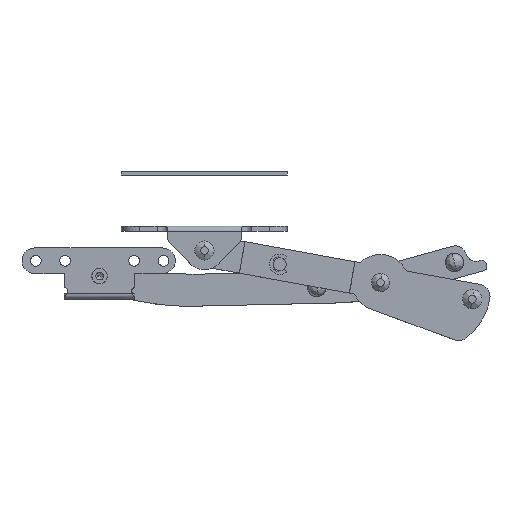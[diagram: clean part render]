
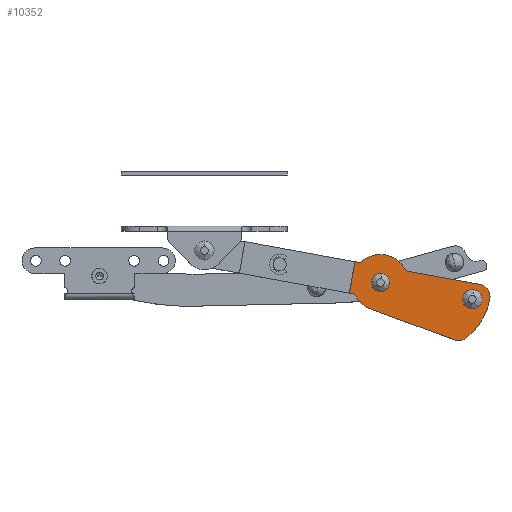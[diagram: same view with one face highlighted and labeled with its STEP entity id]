
A CAD part, top view. The second image highlights one B-rep face of the part: STEP entity #10352.
In plain terms, the highlighted planar face has unit normal (0, 0, 1).
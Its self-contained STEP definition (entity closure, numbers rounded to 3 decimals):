
#132 = VERTEX_POINT ( 'NONE', #11560 ) ;
#212 = EDGE_CURVE ( 'NONE', #14814, #14575, #11612, .T. ) ;
#307 = CIRCLE ( 'NONE', #308, 10. ) ;
#308 = AXIS2_PLACEMENT_3D ( 'NONE', #309, #310, #311 ) ;
#309 = CARTESIAN_POINT ( 'NONE',  ( 295.455, -55.27, 11. ) ) ;
#310 = DIRECTION ( 'NONE',  ( 0., 0., -1. ) ) ;
#311 = DIRECTION ( 'NONE',  ( 1., 0., 0. ) ) ;
#1413 = ORIENTED_EDGE ( 'NONE', *, *, #9859, .F. ) ;
#1584 = CARTESIAN_POINT ( 'NONE',  ( 199.897, -27.731, 11. ) ) ;
#1992 = EDGE_CURVE ( 'NONE', #9277, #9798, #12658, .T. ) ;
#2295 = VERTEX_POINT ( 'NONE', #12809 ) ;
#2404 = ORIENTED_EDGE ( 'NONE', *, *, #1992, .T. ) ;
#2492 = CARTESIAN_POINT ( 'NONE',  ( 195.425, -52.328, 11. ) ) ;
#2545 = EDGE_CURVE ( 'NONE', #11272, #2295, #12960, .T. ) ;
#2661 = CARTESIAN_POINT ( 'NONE',  ( 212.742, -44.045, 11. ) ) ;
#2729 = LINE ( 'NONE', #2730, #2731 ) ;
#2730 = CARTESIAN_POINT ( 'NONE',  ( 77.365, -30.862, 11. ) ) ;
#2731 = VECTOR ( 'NONE', #2732, 1000. ) ;
#2732 = DIRECTION ( 'NONE',  ( -0.984, 0.179, 0. ) ) ;
#2901 = CARTESIAN_POINT ( 'NONE',  ( 226.742, -44.045, 11. ) ) ;
#2924 = CIRCLE ( 'NONE', #2928, 7. ) ;
#2928 = AXIS2_PLACEMENT_3D ( 'NONE', #2929, #2930, #2931 ) ;
#2929 = CARTESIAN_POINT ( 'NONE',  ( 219.742, -44.045, 11. ) ) ;
#2930 = DIRECTION ( 'NONE',  ( 0., 0., 1. ) ) ;
#2931 = DIRECTION ( 'NONE',  ( 1., 0., 0. ) ) ;
#2988 = ORIENTED_EDGE ( 'NONE', *, *, #12390, .T. ) ;
#3168 = VERTEX_POINT ( 'NONE', #13306 ) ;
#3413 = EDGE_CURVE ( 'NONE', #11605, #3168, #13428, .T. ) ;
#3443 = CARTESIAN_POINT ( 'NONE',  ( 277.455, -88.857, 11. ) ) ;
#3517 = ORIENTED_EDGE ( 'NONE', *, *, #11323, .F. ) ;
#3566 = CIRCLE ( 'NONE', #3567, 10. ) ;
#3567 = AXIS2_PLACEMENT_3D ( 'NONE', #3568, #3569, #3570 ) ;
#3568 = CARTESIAN_POINT ( 'NONE',  ( 280.925, -79.478, 11. ) ) ;
#3569 = DIRECTION ( 'NONE',  ( 0., 0., -1. ) ) ;
#3570 = DIRECTION ( 'NONE',  ( 1., 0., 0. ) ) ;
#3871 = CARTESIAN_POINT ( 'NONE',  ( 305.294, -57.059, 11. ) ) ;
#3954 = FACE_BOUND ( 'NONE', #10289, .T. ) ;
#3955 = FACE_BOUND ( 'NONE', #9841, .T. ) ;
#3956 = FACE_OUTER_BOUND ( 'NONE', #12691, .T. ) ;
#3957 = PLANE ( 'NONE',  #3958 ) ;
#3958 = AXIS2_PLACEMENT_3D ( 'NONE', #3959, #3960, #3961 ) ;
#3959 = CARTESIAN_POINT ( 'NONE',  ( 189.249, -74.112, 11. ) ) ;
#3960 = DIRECTION ( 'NONE',  ( 0., 0., 1. ) ) ;
#3961 = DIRECTION ( 'NONE',  ( 0.984, -0.179, 0. ) ) ;
#3977 = CIRCLE ( 'NONE', #3983, 10. ) ;
#3983 = AXIS2_PLACEMENT_3D ( 'NONE', #3984, #3985, #3986 ) ;
#3984 = CARTESIAN_POINT ( 'NONE',  ( 295.455, -55.27, 11. ) ) ;
#3985 = DIRECTION ( 'NONE',  ( 0., 0., -1. ) ) ;
#3986 = DIRECTION ( 'NONE',  ( 1., 0., 0. ) ) ;
#4499 = CARTESIAN_POINT ( 'NONE',  ( 305.455, -55.27, 11. ) ) ;
#5146 = VERTEX_POINT ( 'NONE', #14191 ) ;
#5392 = EDGE_CURVE ( 'NONE', #10300, #5146, #14293, .T. ) ;
#5996 = CARTESIAN_POINT ( 'NONE',  ( 284.064, -57.104, 11. ) ) ;
#6120 = CARTESIAN_POINT ( 'NONE',  ( 299.064, -57.104, 11. ) ) ;
#6121 = CARTESIAN_POINT ( 'NONE',  ( 239.79, -34.985, 11. ) ) ;
#6235 = CIRCLE ( 'NONE', #6236, 7.5 ) ;
#6236 = AXIS2_PLACEMENT_3D ( 'NONE', #6245, #6246, #6247 ) ;
#6245 = CARTESIAN_POINT ( 'NONE',  ( 291.564, -57.104, 11. ) ) ;
#6246 = DIRECTION ( 'NONE',  ( 0., 0., 1. ) ) ;
#6247 = DIRECTION ( 'NONE',  ( 1., 0., 0. ) ) ;
#6248 = CIRCLE ( 'NONE', #6249, 22. ) ;
#6249 = AXIS2_PLACEMENT_3D ( 'NONE', #6250, #6251, #6252 ) ;
#6250 = CARTESIAN_POINT ( 'NONE',  ( 219.742, -44.045, 11. ) ) ;
#6251 = DIRECTION ( 'NONE',  ( 0., 0., -1. ) ) ;
#6252 = DIRECTION ( 'NONE',  ( 1., 0., 0. ) ) ;
#6767 = CARTESIAN_POINT ( 'NONE',  ( 212.107, -64.677, 11. ) ) ;
#6843 = LINE ( 'NONE', #6844, #6845 ) ;
#6844 = CARTESIAN_POINT ( 'NONE',  ( 210.8, -64.194, 11. ) ) ;
#6845 = VECTOR ( 'NONE', #6846, 1000. ) ;
#6846 = DIRECTION ( 'NONE',  ( -0.938, 0.347, 0. ) ) ;
#7091 = EDGE_CURVE ( 'NONE', #2295, #10571, #307, .T. ) ;
#7265 = LINE ( 'NONE', #7266, #7267 ) ;
#7266 = CARTESIAN_POINT ( 'NONE',  ( 197.753, -27.342, 11. ) ) ;
#7267 = VECTOR ( 'NONE', #7268, 1000. ) ;
#7268 = DIRECTION ( 'NONE',  ( -0.984, 0.179, 0. ) ) ;
#7547 = CIRCLE ( 'NONE', #7549, 7.5 ) ;
#7549 = AXIS2_PLACEMENT_3D ( 'NONE', #7550, #7551, #7552 ) ;
#7550 = CARTESIAN_POINT ( 'NONE',  ( 291.564, -57.104, 11. ) ) ;
#7551 = DIRECTION ( 'NONE',  ( 0., 0., 1. ) ) ;
#7552 = DIRECTION ( 'NONE',  ( 1., 0., 0. ) ) ;
#9277 = VERTEX_POINT ( 'NONE', #1584 ) ;
#9304 = ORIENTED_EDGE ( 'NONE', *, *, #12962, .F. ) ;
#9702 = ORIENTED_EDGE ( 'NONE', *, *, #11322, .F. ) ;
#9798 = VERTEX_POINT ( 'NONE', #2492 ) ;
#9841 = EDGE_LOOP ( 'NONE', ( #9702, #9304 ) ) ;
#9859 = EDGE_CURVE ( 'NONE', #3168, #9798, #2729, .T. ) ;
#9903 = EDGE_CURVE ( 'NONE', #14575, #14814, #2924, .T. ) ;
#9992 = ORIENTED_EDGE ( 'NONE', *, *, #9903, .F. ) ;
#10130 = VERTEX_POINT ( 'NONE', #3443 ) ;
#10156 = ORIENTED_EDGE ( 'NONE', *, *, #212, .F. ) ;
#10187 = EDGE_CURVE ( 'NONE', #5146, #10130, #3566, .T. ) ;
#10289 = EDGE_LOOP ( 'NONE', ( #10156, #9992 ) ) ;
#10300 = VERTEX_POINT ( 'NONE', #3871 ) ;
#10352 = ADVANCED_FACE ( 'NONE', ( #3954, #3955, #3956 ), #3957, .T. ) ;
#10357 = EDGE_CURVE ( 'NONE', #10571, #10300, #3977, .T. ) ;
#10571 = VERTEX_POINT ( 'NONE', #4499 ) ;
#10865 = ORIENTED_EDGE ( 'NONE', *, *, #2545, .F. ) ;
#10991 = ORIENTED_EDGE ( 'NONE', *, *, #7091, .F. ) ;
#11122 = ORIENTED_EDGE ( 'NONE', *, *, #10357, .F. ) ;
#11211 = VERTEX_POINT ( 'NONE', #5996 ) ;
#11254 = ORIENTED_EDGE ( 'NONE', *, *, #5392, .F. ) ;
#11270 = VERTEX_POINT ( 'NONE', #6120 ) ;
#11272 = VERTEX_POINT ( 'NONE', #6121 ) ;
#11322 = EDGE_CURVE ( 'NONE', #11270, #11211, #6235, .T. ) ;
#11323 = EDGE_CURVE ( 'NONE', #132, #11272, #6248, .T. ) ;
#11387 = ORIENTED_EDGE ( 'NONE', *, *, #10187, .F. ) ;
#11544 = ORIENTED_EDGE ( 'NONE', *, *, #11841, .F. ) ;
#11560 = CARTESIAN_POINT ( 'NONE',  ( 204.166, -28.508, 11. ) ) ;
#11605 = VERTEX_POINT ( 'NONE', #6767 ) ;
#11612 = CIRCLE ( 'NONE', #11613, 7. ) ;
#11613 = AXIS2_PLACEMENT_3D ( 'NONE', #11614, #11615, #11616 ) ;
#11614 = CARTESIAN_POINT ( 'NONE',  ( 219.742, -44.045, 11. ) ) ;
#11615 = DIRECTION ( 'NONE',  ( 0., 0., 1. ) ) ;
#11616 = DIRECTION ( 'NONE',  ( 1., 0., 0. ) ) ;
#11841 = EDGE_CURVE ( 'NONE', #10130, #11605, #6843, .T. ) ;
#12114 = ORIENTED_EDGE ( 'NONE', *, *, #3413, .F. ) ;
#12390 = EDGE_CURVE ( 'NONE', #132, #9277, #7265, .T. ) ;
#12658 = LINE ( 'NONE', #12659, #12660 ) ;
#12659 = CARTESIAN_POINT ( 'NONE',  ( 191.393, -74.501, 11. ) ) ;
#12660 = VECTOR ( 'NONE', #12661, 1000. ) ;
#12661 = DIRECTION ( 'NONE',  ( -0.179, -0.984, 0. ) ) ;
#12691 = EDGE_LOOP ( 'NONE', ( #12114, #11544, #11387, #11254, #11122, #10991, #10865, #3517, #2988, #2404, #1413 ) ) ;
#12809 = CARTESIAN_POINT ( 'NONE',  ( 297.244, -45.431, 11. ) ) ;
#12960 = LINE ( 'NONE', #12961, #12966 ) ;
#12961 = CARTESIAN_POINT ( 'NONE',  ( 298.393, -45.64, 11. ) ) ;
#12962 = EDGE_CURVE ( 'NONE', #11211, #11270, #7547, .T. ) ;
#12966 = VECTOR ( 'NONE', #12967, 1000. ) ;
#12967 = DIRECTION ( 'NONE',  ( 0.984, -0.179, 0. ) ) ;
#13306 = CARTESIAN_POINT ( 'NONE',  ( 199.694, -53.104, 11. ) ) ;
#13428 = CIRCLE ( 'NONE', #13429, 22. ) ;
#13429 = AXIS2_PLACEMENT_3D ( 'NONE', #13430, #13431, #13432 ) ;
#13430 = CARTESIAN_POINT ( 'NONE',  ( 219.742, -44.045, 11. ) ) ;
#13431 = DIRECTION ( 'NONE',  ( 0., 0., -1. ) ) ;
#13432 = DIRECTION ( 'NONE',  ( 1., 0., 0. ) ) ;
#14191 = CARTESIAN_POINT ( 'NONE',  ( 287.132, -87.319, 11. ) ) ;
#14293 = CIRCLE ( 'NONE', #14294, 50. ) ;
#14294 = AXIS2_PLACEMENT_3D ( 'NONE', #14295, #14296, #14297 ) ;
#14295 = CARTESIAN_POINT ( 'NONE',  ( 256.1, -48.114, 11. ) ) ;
#14296 = DIRECTION ( 'NONE',  ( 0., 0., -1. ) ) ;
#14297 = DIRECTION ( 'NONE',  ( 1., 0., 0. ) ) ;
#14575 = VERTEX_POINT ( 'NONE', #2661 ) ;
#14814 = VERTEX_POINT ( 'NONE', #2901 ) ;
